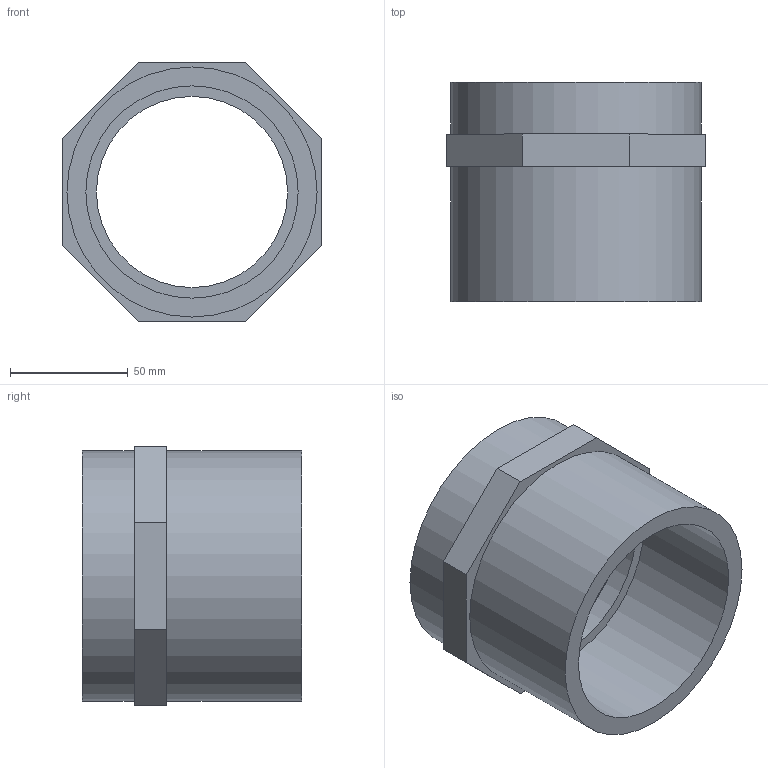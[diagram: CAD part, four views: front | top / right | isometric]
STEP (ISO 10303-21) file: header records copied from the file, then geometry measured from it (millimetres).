
FILE_DESCRIPTION(/* description */ ('PVC manicotto incollaggio metrico-filettato BSP femmina'),/* implementation_level */ '2;1');
FILE_NAME(/* name */ 'C:\Users\POLYPIPE\Desktop\DATASET INVENTOR\LIBRERIA EFFAST\RACCORDI 3DxWEB\RGR\3D_RGRMAG\3D_RGRMAG090I.stp',/* time_stamp */ '2018-01-19T17:49:12+01:00',/* author */ ('POLYPIPE'),/* organization */ ('Polypipe Italia s.r.l.'),/* preprocessor_version */ 'ST-DEVELOPER v16.1',/* originating_system */ 'Autodesk Inventor 2016',/* authorisation */ '');
FILE_SCHEMA (('CONFIG_CONTROL_DESIGN'));
Length unit declared in the file: millimetre
Products named in the file (1): 3D_RGRMAG
Bounding box: 110 x 93 x 110 mm (x, y, z)
Volume: 272919.9 mm3; surface area: 72820.2 mm2
Topology: 1 solids, 1 shells, 25 faces, 56 edges, 37 vertices
Faces by surface type: plane 15, bspline 5, cylinder 5
Full cylindrical faces by diameter (mm): 81 x1, 84.926 x1, 90 x1, 106 x2
Entity records: 5924 total; most frequent: CARTESIAN_POINT 5388, ORIENTED_EDGE 100, DIRECTION 93, EDGE_CURVE 50, EDGE_LOOP 35, VERTEX_POINT 35, AXIS2_PLACEMENT_3D 33, LINE 27
